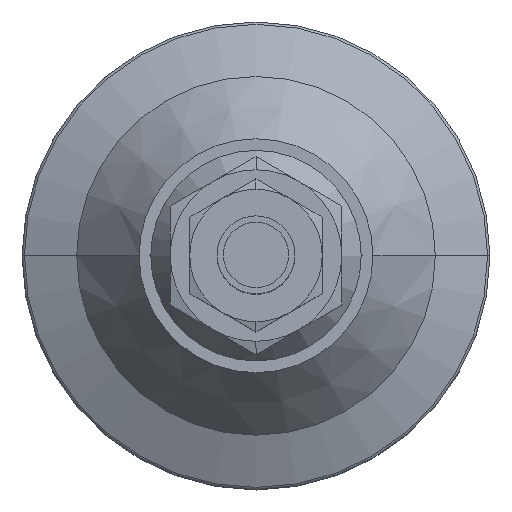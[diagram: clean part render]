
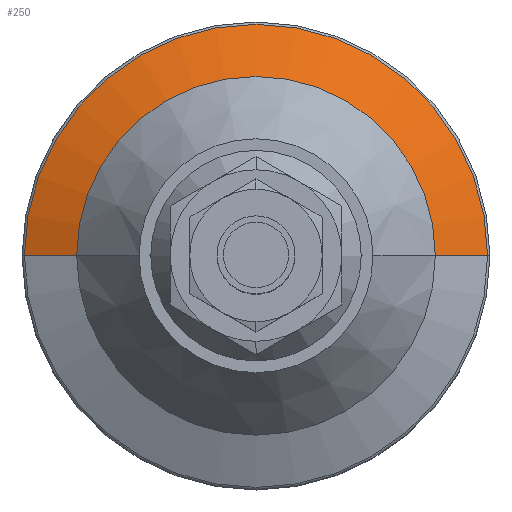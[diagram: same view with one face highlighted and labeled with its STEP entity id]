
A CAD part, top view. The second image highlights one B-rep face of the part: STEP entity #250.
In plain terms, the highlighted conical face has half-angle 66.905 degrees and reference radius 32.5 mm.
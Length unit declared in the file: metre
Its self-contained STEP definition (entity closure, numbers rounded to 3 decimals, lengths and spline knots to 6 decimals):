
#250=ADVANCED_FACE('102:25',(#437),#438,.T.);
#437=FACE_OUTER_BOUND('',#2672,.T.);
#438=CONICAL_SURFACE('',#2673,0.0325,1.168);
#2672=EDGE_LOOP('',(#3287,#3288,#3289,#3290));
#2673=AXIS2_PLACEMENT_3D('',#3291,#3292,#3293);
#3287=ORIENTED_EDGE('',*,*,#3532,.F.);
#3288=ORIENTED_EDGE('',*,*,#3533,.F.);
#3289=ORIENTED_EDGE('',*,*,#3534,.F.);
#3290=ORIENTED_EDGE('',*,*,#3535,.F.);
#3291=CARTESIAN_POINT('',(0.0,0.0,0.014449));
#3292=DIRECTION('',(-0.0,0.0,-1.0));
#3293=DIRECTION('',(-1.0,0.0,0.0));
#3532=EDGE_CURVE('',#3831,#3832,#3833,.T.);
#3533=EDGE_CURVE('102:37',#3834,#3831,#3835,.T.);
#3534=EDGE_CURVE('',#3836,#3834,#3837,.T.);
#3535=EDGE_CURVE('102:40',#3832,#3836,#3838,.T.);
#3831=VERTEX_POINT('',#4753);
#3832=VERTEX_POINT('',#4754);
#3833=LINE('',#4755,#4756);
#3834=VERTEX_POINT('',#4757);
#3835=CIRCLE('',#4758,0.023);
#3836=VERTEX_POINT('',#4759);
#3837=LINE('',#4760,#4761);
#3838=CIRCLE('',#4762,0.029696);
#4753=CARTESIAN_POINT('',(-0.023,0.,0.0185));
#4754=CARTESIAN_POINT('',(-0.029696,0.,0.015645));
#4755=CARTESIAN_POINT('',(-0.0325,0.,0.014449));
#4756=VECTOR('',#5053,1.0);
#4757=CARTESIAN_POINT('',(0.023,0.,0.0185));
#4758=AXIS2_PLACEMENT_3D('',#5054,#5055,#5056);
#4759=CARTESIAN_POINT('',(0.029696,0.,0.015645));
#4760=CARTESIAN_POINT('',(0.0325,0.,0.014449));
#4761=VECTOR('',#5057,1.0);
#4762=AXIS2_PLACEMENT_3D('',#5058,#5059,#5060);
#5053=DIRECTION('',(-0.92,0.,-0.392));
#5054=CARTESIAN_POINT('',(0.0,0.0,0.0185));
#5055=DIRECTION('',(0.0,0.0,1.0));
#5056=DIRECTION('',(1.0,0.0,0.0));
#5057=DIRECTION('',(-0.92,0.,0.392));
#5058=CARTESIAN_POINT('',(0.0,0.0,0.015645));
#5059=DIRECTION('',(0.0,0.0,-1.0));
#5060=DIRECTION('',(1.0,0.0,0.0));
